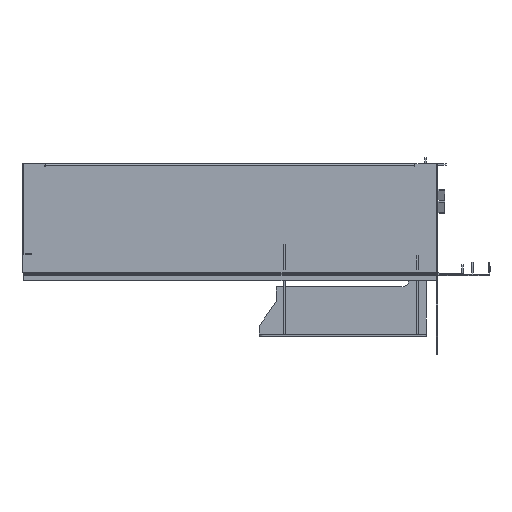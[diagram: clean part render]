
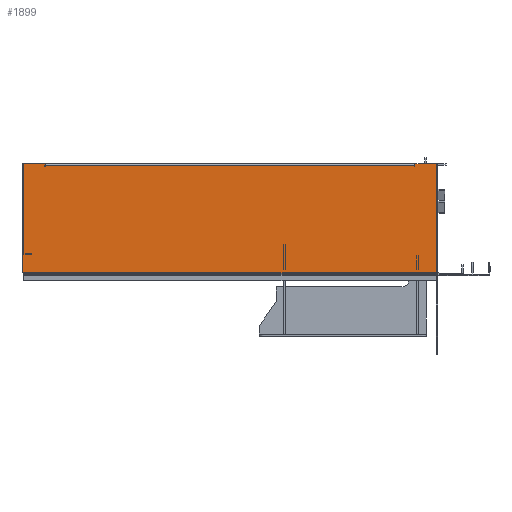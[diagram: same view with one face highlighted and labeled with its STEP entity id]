
A CAD part, left-side view. The second image highlights one B-rep face of the part: STEP entity #1899.
In plain terms, the highlighted planar face has unit normal (-1, 0, 0) as drawn and (0, -1, 0) by its records, which use the part's own axes.
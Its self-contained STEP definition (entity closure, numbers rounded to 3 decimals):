
#1899 = ADVANCED_FACE( '', ( #3882 ), #3883, .F. );
#3882 = FACE_OUTER_BOUND( '', #6127, .T. );
#3883 = PLANE( '', #6128 );
#6127 = EDGE_LOOP( '', ( #11753, #11754, #11755, #11756, #11757, #11758, #11759, #11760, #11761, #11762, #11763, #11764, #11765, #11766 ) );
#6128 = AXIS2_PLACEMENT_3D( '', #11767, #11768, #11769 );
#11753 = ORIENTED_EDGE( '', *, *, #15646, .F. );
#11754 = ORIENTED_EDGE( '', *, *, #15995, .T. );
#11755 = ORIENTED_EDGE( '', *, *, #14028, .T. );
#11756 = ORIENTED_EDGE( '', *, *, #15996, .T. );
#11757 = ORIENTED_EDGE( '', *, *, #15997, .T. );
#11758 = ORIENTED_EDGE( '', *, *, #14021, .T. );
#11759 = ORIENTED_EDGE( '', *, *, #14200, .T. );
#11760 = ORIENTED_EDGE( '', *, *, #13767, .T. );
#11761 = ORIENTED_EDGE( '', *, *, #15631, .T. );
#11762 = ORIENTED_EDGE( '', *, *, #14272, .F. );
#11763 = ORIENTED_EDGE( '', *, *, #15383, .T. );
#11764 = ORIENTED_EDGE( '', *, *, #15998, .T. );
#11765 = ORIENTED_EDGE( '', *, *, #14536, .F. );
#11766 = ORIENTED_EDGE( '', *, *, #15635, .F. );
#11767 = CARTESIAN_POINT( '', ( 0., 0., 450. ) );
#11768 = DIRECTION( '', ( 0., 1., 0. ) );
#11769 = DIRECTION( '', ( 0., 0., 1. ) );
#13767 = EDGE_CURVE( '', #16962, #16960, #16963, .T. );
#14021 = EDGE_CURVE( '', #17412, #17414, #17416, .T. );
#14028 = EDGE_CURVE( '', #17427, #17428, #17429, .T. );
#14200 = EDGE_CURVE( '', #17414, #16962, #17722, .T. );
#14272 = EDGE_CURVE( '', #17842, #16936, #17844, .T. );
#14536 = EDGE_CURVE( '', #18281, #18283, #18284, .T. );
#15383 = EDGE_CURVE( '', #17842, #19581, #19582, .T. );
#15631 = EDGE_CURVE( '', #16960, #16936, #19931, .T. );
#15635 = EDGE_CURVE( '', #19934, #18281, #19936, .T. );
#15646 = EDGE_CURVE( '', #19948, #19934, #19950, .T. );
#15995 = EDGE_CURVE( '', #19948, #17427, #20369, .T. );
#15996 = EDGE_CURVE( '', #17428, #20370, #20371, .T. );
#15997 = EDGE_CURVE( '', #20370, #17412, #20372, .T. );
#15998 = EDGE_CURVE( '', #19581, #18283, #20373, .T. );
#16936 = VERTEX_POINT( '', #22391 );
#16960 = VERTEX_POINT( '', #22422 );
#16962 = VERTEX_POINT( '', #22425 );
#16963 = LINE( '', #22426, #22427 );
#17412 = VERTEX_POINT( '', #23074 );
#17414 = VERTEX_POINT( '', #23077 );
#17416 = LINE( '', #23080, #23081 );
#17427 = VERTEX_POINT( '', #23096 );
#17428 = VERTEX_POINT( '', #23097 );
#17429 = LINE( '', #23098, #23099 );
#17722 = LINE( '', #23520, #23521 );
#17842 = VERTEX_POINT( '', #23690 );
#17844 = LINE( '', #23693, #23694 );
#18281 = VERTEX_POINT( '', #24312 );
#18283 = VERTEX_POINT( '', #24315 );
#18284 = LINE( '', #24316, #24317 );
#19581 = VERTEX_POINT( '', #26204 );
#19582 = LINE( '', #26205, #26206 );
#19931 = LINE( '', #26720, #26721 );
#19934 = VERTEX_POINT( '', #26725 );
#19936 = LINE( '', #26728, #26729 );
#19948 = VERTEX_POINT( '', #26746 );
#19950 = LINE( '', #26748, #26749 );
#20369 = LINE( '', #27355, #27356 );
#20370 = VERTEX_POINT( '', #27357 );
#20371 = LINE( '', #27358, #27359 );
#20372 = LINE( '', #27360, #27361 );
#20373 = LINE( '', #27362, #27363 );
#22391 = CARTESIAN_POINT( '', ( -1684., 0., 442. ) );
#22422 = CARTESIAN_POINT( '', ( -6., 0., 442. ) );
#22425 = CARTESIAN_POINT( '', ( 0., 0., 442. ) );
#22426 = CARTESIAN_POINT( '', ( 0., 0., 442. ) );
#22427 = VECTOR( '', #28361, 1000. );
#23074 = CARTESIAN_POINT( '', ( -93., 0., 0. ) );
#23077 = CARTESIAN_POINT( '', ( 0., 0., 0. ) );
#23080 = CARTESIAN_POINT( '', ( -1690., 0., 0. ) );
#23081 = VECTOR( '', #28619, 1000. );
#23096 = CARTESIAN_POINT( '', ( -95., 0., 8. ) );
#23097 = CARTESIAN_POINT( '', ( -95., 0., 10. ) );
#23098 = CARTESIAN_POINT( '', ( -95., 0., 0. ) );
#23099 = VECTOR( '', #28624, 1000. );
#23520 = CARTESIAN_POINT( '', ( 0., 0., 0. ) );
#23521 = VECTOR( '', #28786, 1000. );
#23690 = CARTESIAN_POINT( '', ( -1690., 0., 442. ) );
#23693 = CARTESIAN_POINT( '', ( -1690., 0., 442. ) );
#23694 = VECTOR( '', #28855, 1000. );
#24312 = CARTESIAN_POINT( '', ( -1597., 0., 10. ) );
#24315 = CARTESIAN_POINT( '', ( -1597., 0., 0. ) );
#24316 = CARTESIAN_POINT( '', ( -1597., 0., 10. ) );
#24317 = VECTOR( '', #29122, 1000. );
#26204 = CARTESIAN_POINT( '', ( -1690., 0., 0. ) );
#26205 = CARTESIAN_POINT( '', ( -1690., 0., 450. ) );
#26206 = VECTOR( '', #29981, 1000. );
#26720 = CARTESIAN_POINT( '', ( 0., 0., 442. ) );
#26721 = VECTOR( '', #30195, 1000. );
#26725 = CARTESIAN_POINT( '', ( -1595., 0., 10. ) );
#26728 = CARTESIAN_POINT( '', ( -1595., 0., 10. ) );
#26729 = VECTOR( '', #30198, 1000. );
#26746 = CARTESIAN_POINT( '', ( -1595., 0., 8. ) );
#26748 = CARTESIAN_POINT( '', ( -1595., 0., 0. ) );
#26749 = VECTOR( '', #30210, 1000. );
#27355 = CARTESIAN_POINT( '', ( -1595., 0., 8. ) );
#27356 = VECTOR( '', #30530, 1000. );
#27357 = CARTESIAN_POINT( '', ( -93., 0., 10. ) );
#27358 = CARTESIAN_POINT( '', ( -95., 0., 10. ) );
#27359 = VECTOR( '', #30531, 1000. );
#27360 = CARTESIAN_POINT( '', ( -93., 0., 10. ) );
#27361 = VECTOR( '', #30532, 1000. );
#27362 = CARTESIAN_POINT( '', ( -1690., 0., 0. ) );
#27363 = VECTOR( '', #30533, 1000. );
#28361 = DIRECTION( '', ( -1., 0., 0. ) );
#28619 = DIRECTION( '', ( 1., 0., 0. ) );
#28624 = DIRECTION( '', ( 0., 0., 1. ) );
#28786 = DIRECTION( '', ( 0., 0., 1. ) );
#28855 = DIRECTION( '', ( 1., 0., 0. ) );
#29122 = DIRECTION( '', ( 0., 0., -1. ) );
#29981 = DIRECTION( '', ( 0., 0., -1. ) );
#30195 = DIRECTION( '', ( -1., 0., 0. ) );
#30198 = DIRECTION( '', ( -1., 0., 0. ) );
#30210 = DIRECTION( '', ( 0., 0., 1. ) );
#30530 = DIRECTION( '', ( 1., 0., 0. ) );
#30531 = DIRECTION( '', ( 1., 0., 0. ) );
#30532 = DIRECTION( '', ( 0., 0., -1. ) );
#30533 = DIRECTION( '', ( 1., 0., 0. ) );
